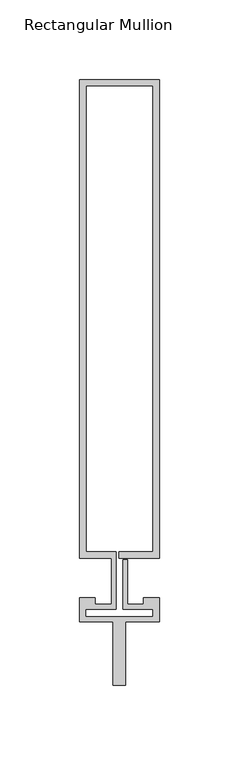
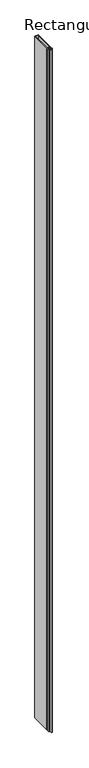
"""IFC4 building model written with IfcOpenShell, lengths in millimetres: member geometry, Rectangular Mullion : Reynaers_CW-50_Mullion-Transom_Vertical_300.5mm_Facecap-06B."""

from ifc_helpers import new_model, si_unit, frame, origin, place, context, project, spatial, polyline, outline, extrude, source, transform, mapped, element, save


def rectangular_mullion_e64b012d(model_context):
    return source(origin(), model_context, "Body", "SweptSolid", [
        extrude(outline(polyline([(-24.8004059, 313.0), (25.1995941, 313.0), (25.1995941, 12.5), (0.0, 12.5), (0.0, 16.5), (21.1995941, 16.5), (21.1995941, 309.0), (-20.8004059, 309.0), (-20.8004059, 16.5), (-1.9004059, 16.5), (-1.9004059, -19.5), (-20.994845, -19.5), (-20.994845, -24.4191338), (21.1995941, -24.4191338), (21.1995941, -19.5), (2.2995941, -19.5), (2.2995941, 11.5), (5.2995941, 11.5), (5.2995941, -16.5), (15.2996495, -16.5), (15.2996495, -12.5), (25.1995941, -12.5), (25.1995941, -27.5), (4.004855, -27.5), (4.004855, -67.5), (-3.995145, -67.5), (-3.995145, -27.5), (-24.994845, -27.5), (-24.994845, -12.5), (-15.2996495, -12.5), (-15.2996495, -16.5), (-4.9004059, -16.5), (-4.9004059, 12.5), (-24.8004059, 12.5), (-24.8004059, 313.0)])), frame((0.0, 0.0, -10400.0), z_axis=(0.0, 0.0, 1.0), x_axis=(1.0, 0.0, 0.0)), (0.0, 0.0, 1.0), 10400.0),
    ])


if __name__ == "__main__":
    model = new_model("IFC4")
    model_context = context("Model", 3, world=origin())
    ifc_project = project(units=[si_unit("LENGTHUNIT", "METRE", prefix="MILLI")], contexts=[model_context])
    site = spatial("IfcSite", under=ifc_project)
    building = spatial("IfcBuilding", under=site)
    placement = place(None, origin())
    rectangular_mullion_shape = rectangular_mullion_e64b012d(model_context)
    element("IfcMember", 1, ObjectType="Rectangular Mullion : Reynaers_CW-50_Mullion-Transom_Vertical_300.5mm_Facecap-06B", at=placement, inside=building, context=model_context, shape_type="MappedRepresentation", body=[
        mapped(rectangular_mullion_shape, transform((0.0, 0.0, 0.0), x_axis=(1.0, 0.0, 0.0), y_axis=(0.0, 1.0, 0.0), z_axis=(0.0, 0.0, 1.0))),
    ])
    save(model, "model.ifc")
